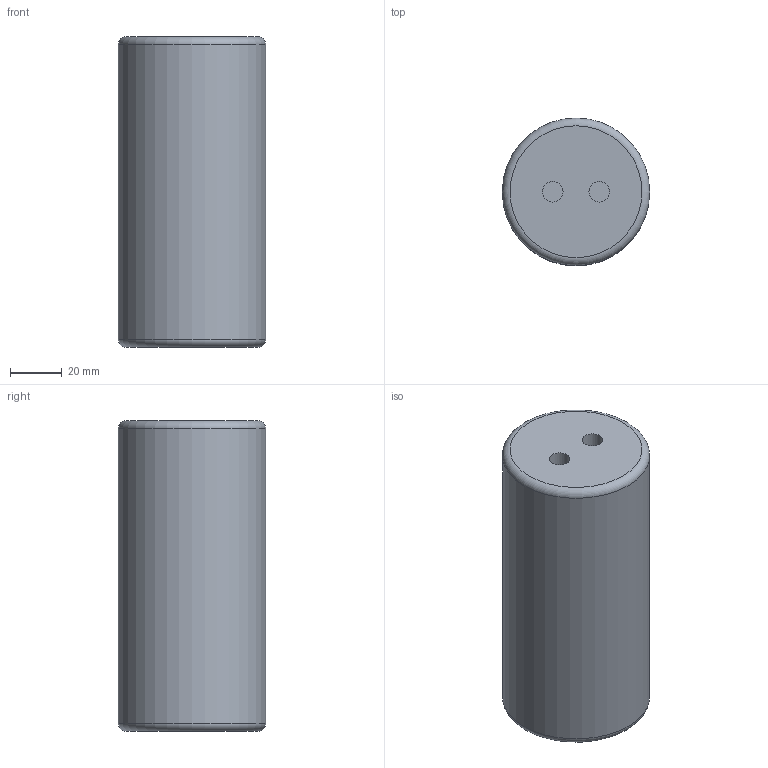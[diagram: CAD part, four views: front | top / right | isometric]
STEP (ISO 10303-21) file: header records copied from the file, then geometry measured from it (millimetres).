
FILE_DESCRIPTION (( 'STEP AP214' ), '1' );
FILE_NAME ('Èçîëÿòîð îïîðíûé ÈÎËÏ-10-4-57-ÓÕË2-ÊÝÀÇ.STEP', '2023-02-02T05:41:02', ( '' ), ( '' ), 'SwSTEP 2.0', 'SolidWorks 2018', '' );
FILE_SCHEMA (( 'AUTOMOTIVE_DESIGN' ));
Length unit declared in the file: millimetre
Products named in the file (1): Èçîëÿòîð îïîðíûé ÈÎËÏ-10-4-57-ÓÕË2-ÊÝÀÇ
Bounding box: 57 x 57 x 120 mm (x, y, z)
Volume: 300666.1 mm3; surface area: 28322 mm2
Topology: 1 solids, 1 shells, 11 faces, 16 edges, 10 vertices
Faces by surface type: plane 5, cylinder 4, torus 2
Full cylindrical faces by diameter (mm): 8 x2, 10 x1, 57 x1
Entity records: 248 total; most frequent: DIRECTION 44, CARTESIAN_POINT 32, AXIS2_PLACEMENT_3D 22, ORIENTED_EDGE 20, EDGE_LOOP 20, FACE_OUTER_BOUND 17, ADVANCED_FACE 11, CIRCLE 10
